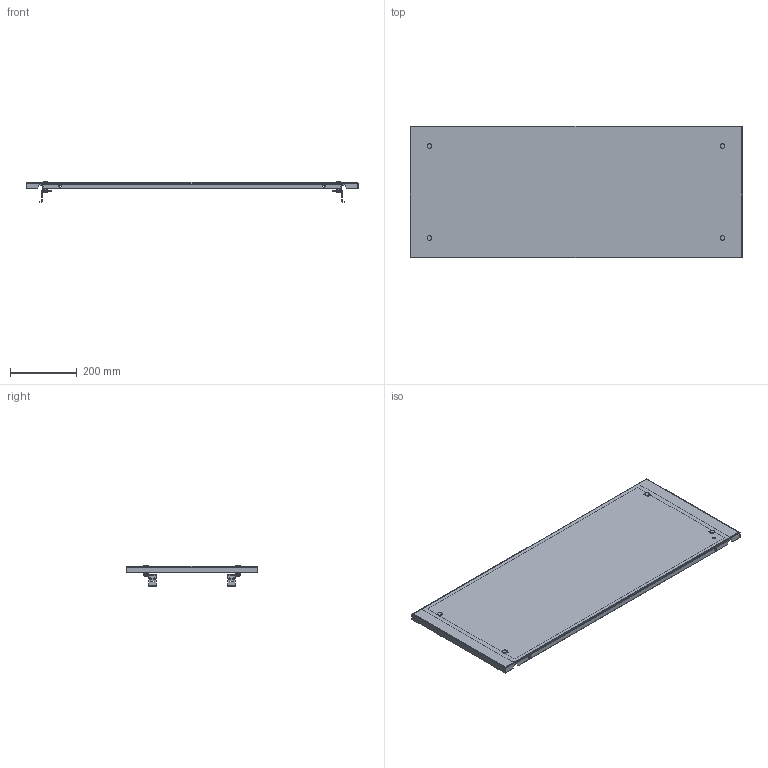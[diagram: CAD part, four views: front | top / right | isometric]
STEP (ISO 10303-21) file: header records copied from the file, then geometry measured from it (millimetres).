
FILE_DESCRIPTION(('CAx-IF Rec.Pracs.---Model Styling and Organization---1.2---2011-12-15','CAx-IF Rec.Pracs.---Geometric and Assembly Validation Properties---4.1---2014-06-16','CAx-IF Rec.Pracs.---PMI Polyline Presentation---2.0---2013-05-24'),'2;1');
FILE_NAME('R5CPFEM10400.stp','2021-05-06T03:42:01+03:00',(''),(''),'STEP Interface 4.4 by CT CoreTechnologie','3D_Evolution4.4 by CT CoreTechnologie','');
FILE_SCHEMA(('AUTOMOTIVE_DESIGN { 1 0 10303 214 1 1 1 1 }'));
Length unit declared in the file: millimetre
Products named in the file (11): R5CPFEM10400; M6x16-DIN 7985 ISR_thread; A1100001; AC00C172_AC00C172; RB.0544.00.00.1_-01; RB.0544.00.00.1_-00; RB.0555.00.00.0 ÑÁ_-27; PF 7x14 R5CPFEM_0400x1000; Ì6õ12-A5100231_straight; AC00C061_AC00C061; RB.0555.00.01.0_-27
Assembly tree (21 placements, depth 3):
  R5CPFEM10400
    M6x16-DIN 7985 ISR_thread  x4
    A1100001  x4
    AC00C172_AC00C172  x4
    RB.0544.00.00.1_-01  x2
    RB.0544.00.00.1_-00  x2
    RB.0555.00.00.0 ÑÁ_-27
      PF 7x14 R5CPFEM_0400x1000
      Ì6õ12-A5100231_straight
      AC00C061_AC00C061
      RB.0555.00.01.0_-27
Bounding box: 994 x 395 x 61 mm (x, y, z)
Surface area: 1002287.4 mm2 (no closed solid volume)
Topology: 0 solids, 30 shells, 490 faces, 1267 edges, 841 vertices
Faces by surface type: plane 326, cylinder 128, bspline 36
Entity records: 9200 total; most frequent: CARTESIAN_POINT 2112, ORIENTED_EDGE 1342, DIRECTION 1316, EDGE_CURVE 671, VECTOR 494, LINE 494, VERTEX_POINT 445, AXIS2_PLACEMENT_3D 411
